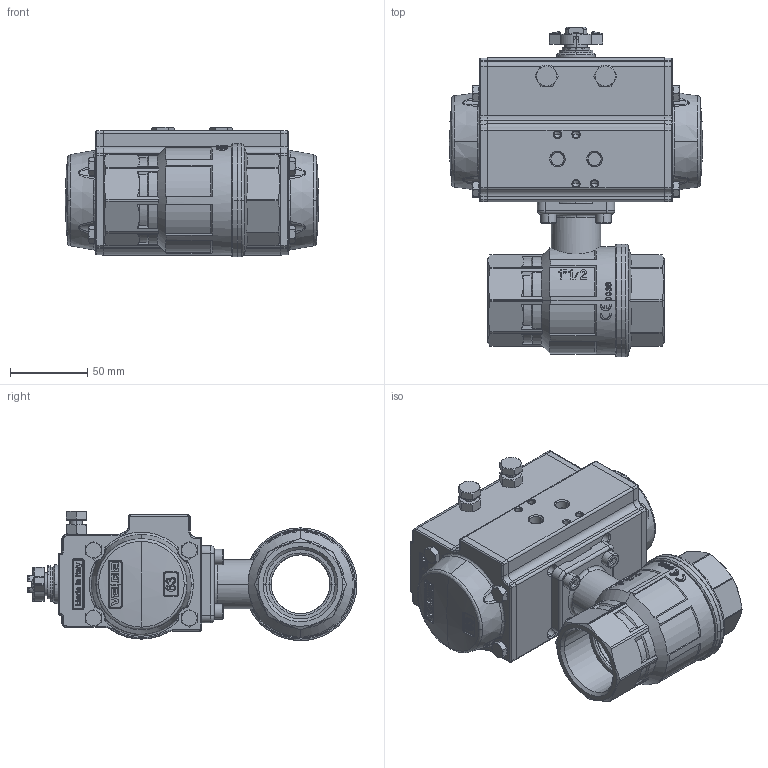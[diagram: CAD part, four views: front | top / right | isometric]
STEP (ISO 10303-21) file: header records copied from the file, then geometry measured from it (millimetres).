
FILE_DESCRIPTION (( 'STEP AP214' ), '1' );
FILE_NAME ('8P00810008.STEP', '2017-03-07T14:39:59', ( 'Negroni' ), ( 'Hewlett-Packard Company' ), 'SwSTEP 2.0', 'SolidWorks 2015', '' );
FILE_SCHEMA (( 'AUTOMOTIVE_DESIGN' ));
Length unit declared in the file: millimetre
Products named in the file (1): 8P00810008
Bounding box: 163.98 x 213.5 x 83.67 mm (x, y, z)
Volume: 1150172.6 mm3; surface area: 114125.9 mm2
Topology: 1 solids, 1 shells, 2310 faces, 6228 edges, 3963 vertices
Faces by surface type: plane 1104, bspline 554, cylinder 369, cone 266, sphere 9, torus 8
Entity records: 133462 total; most frequent: CARTESIAN_POINT 68942, ORIENTED_EDGE 12350, DIRECTION 6919, EDGE_CURVE 6175, VERTEX_POINT 3963, B_SPLINE_CURVE_WITH_KNOTS 3131, EDGE_LOOP 2438, AXIS2_PLACEMENT_3D 2329
